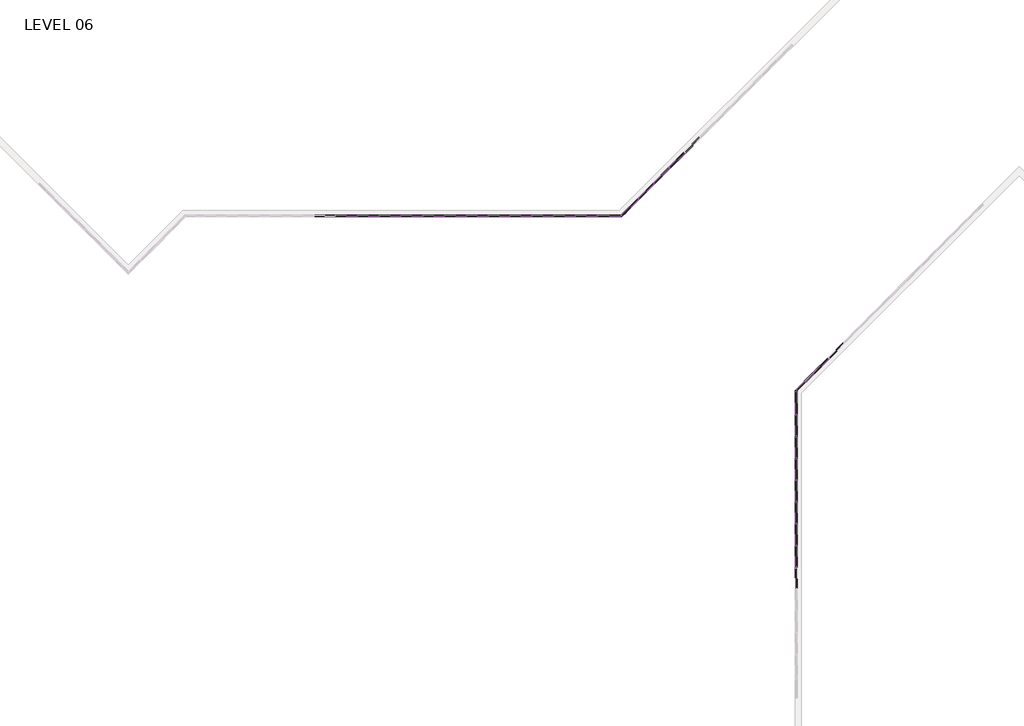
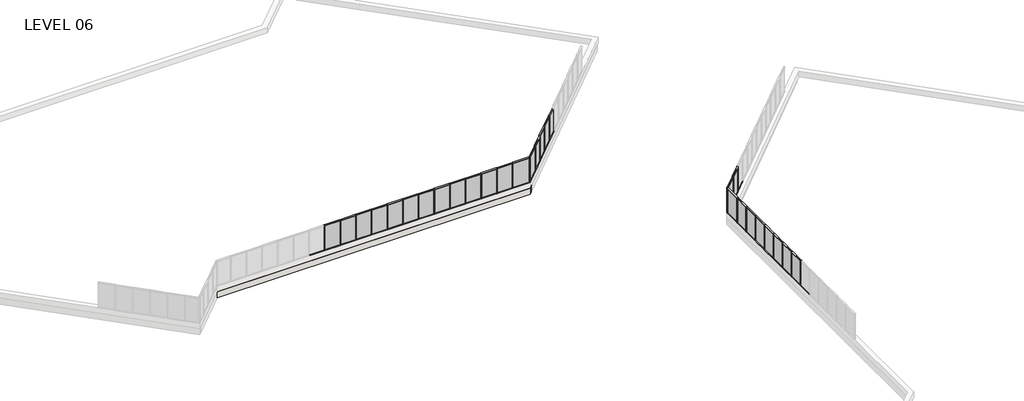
# One storey, part 13 of 17: 89 members, 28 plates, 1 wall.
"""IFC4 building model written with IfcOpenShell, lengths in millimetres."""

from ifc_helpers import new_model, si_unit, origin, place, context, project, spatial, faceted_brep, transform, mapped, element, save
from components import member_5247f267, member_e44af9ab, member_800970d4, member_1bd862b2, member_7ca0f77f, member_c975838b, plate_67294edd, plate_bbcbcabf, plate_e0fd5134, plate_db5d6751

model = new_model("IFC4")

# Units and contexts
model_context = context("Model", 3, world=origin())
ifc_project = project(units=[si_unit("LENGTHUNIT", "METRE", prefix="MILLI")], contexts=[model_context])

# Site, building, storey
site = spatial("IfcSite", under=ifc_project)
building = spatial("IfcBuilding", under=site)
storey = spatial("IfcBuildingStorey", under=building, Name="LEVEL 06", Elevation=19596.1)

# Members
placement = place(None, origin())
member_shape = member_5247f267(model_context)
element("IfcMember", 1, ObjectType="Rectangular Mullion : 2\" x 4.5\" rectangular", at=placement, inside=storey, context=model_context, shape_type="MappedRepresentation", body=[
    mapped(member_shape, transform((38182.55, 88955.8023049, 19596.1), x_axis=(0.0, 0.0, -1.0), y_axis=(0.0, 1.0, 0.0), z_axis=(1.0, 0.0, 0.0))),
])
element("IfcMember", 2, ObjectType="Rectangular Mullion : 2\" x 4.5\" rectangular", at=placement, inside=storey, context=model_context, shape_type="MappedRepresentation", body=[
    mapped(member_shape, transform((36658.55, 88955.8023049, 19596.1), x_axis=(0.0, 0.0, -1.0), y_axis=(0.0, 1.0, 0.0), z_axis=(1.0, 0.0, 0.0))),
])
element("IfcMember", 3, ObjectType="Rectangular Mullion : 2\" x 4.5\" rectangular", at=placement, inside=storey, context=model_context, shape_type="MappedRepresentation", body=[
    mapped(member_shape, transform((35134.55, 88955.8023049, 19596.1), x_axis=(0.0, 0.0, -1.0), y_axis=(0.0, 1.0, 0.0), z_axis=(1.0, 0.0, 0.0))),
])
element("IfcMember", 4, ObjectType="Rectangular Mullion : 2\" x 4.5\" rectangular", at=placement, inside=storey, context=model_context, shape_type="MappedRepresentation", body=[
    mapped(member_shape, transform((32086.55, 88955.8023049, 19596.1), x_axis=(0.0, 0.0, -1.0), y_axis=(0.0, 1.0, 0.0), z_axis=(1.0, 0.0, 0.0))),
])
element("IfcMember", 5, ObjectType="Rectangular Mullion : 2\" x 4.5\" rectangular", at=placement, inside=storey, context=model_context, shape_type="MappedRepresentation", body=[
    mapped(member_shape, transform((30562.55, 88955.8023049, 19596.1), x_axis=(0.0, 0.0, -1.0), y_axis=(0.0, 1.0, 0.0), z_axis=(1.0, 0.0, 0.0))),
])
element("IfcMember", 6, ObjectType="Rectangular Mullion : 2\" x 4.5\" rectangular", at=placement, inside=storey, context=model_context, shape_type="MappedRepresentation", body=[
    mapped(member_shape, transform((29038.55, 88955.8023049, 19596.1), x_axis=(0.0, 0.0, -1.0), y_axis=(0.0, 1.0, 0.0), z_axis=(1.0, 0.0, 0.0))),
])
element("IfcMember", 7, ObjectType="Rectangular Mullion : 2\" x 4.5\" rectangular", at=placement, inside=storey, context=model_context, shape_type="MappedRepresentation", body=[
    mapped(member_shape, transform((33610.55, 88955.8023049, 19596.1), x_axis=(0.0, 0.0, -1.0), y_axis=(0.0, 1.0, 0.0), z_axis=(1.0, 0.0, 0.0))),
])
element("IfcMember", 8, ObjectType="Rectangular Mullion : 2\" x 4.5\" rectangular", at=placement, inside=storey, context=model_context, shape_type="MappedRepresentation", body=[
    mapped(member_shape, transform((39706.55, 88955.8023049, 19596.1), x_axis=(0.0, 0.0, -1.0), y_axis=(0.0, 1.0, 0.0), z_axis=(1.0, 0.0, 0.0))),
])
element("IfcMember", 9, ObjectType="Rectangular Mullion : 2\" x 4.5\" rectangular", at=placement, inside=storey, context=model_context, shape_type="MappedRepresentation", body=[
    mapped(member_shape, transform((41230.55, 88955.8023049, 19596.1), x_axis=(0.0, 0.0, -1.0), y_axis=(0.0, 1.0, 0.0), z_axis=(1.0, 0.0, 0.0))),
])
element("IfcMember", 10, ObjectType="Rectangular Mullion : 2\" x 4.5\" rectangular", at=placement, inside=storey, context=model_context, shape_type="MappedRepresentation", body=[
    mapped(member_shape, transform((42754.55, 88955.8023049, 19596.1), x_axis=(0.0, 0.0, -1.0), y_axis=(0.0, 1.0, 0.0), z_axis=(1.0, 0.0, 0.0))),
])
element("IfcMember", 11, ObjectType="Rectangular Mullion : 2\" x 4.5\" rectangular", at=placement, inside=storey, context=model_context, shape_type="MappedRepresentation", body=[
    mapped(member_shape, transform((44278.55, 88955.8023049, 19596.1), x_axis=(0.0, 0.0, -1.0), y_axis=(0.0, 1.0, 0.0), z_axis=(1.0, 0.0, 0.0))),
])
element("IfcMember", 12, ObjectType="Rectangular Mullion : 2\" x 4.5\" rectangular", at=placement, inside=storey, context=model_context, shape_type="MappedRepresentation", body=[
    mapped(member_shape, transform((45802.55, 88955.8023049, 19596.1), x_axis=(0.0, 0.0, -1.0), y_axis=(0.0, 1.0, 0.0), z_axis=(1.0, 0.0, 0.0))),
])
element("IfcMember", 13, ObjectType="Rectangular Mullion : 2\" x 4.5\" rectangular", at=placement, inside=storey, context=model_context, shape_type="MappedRepresentation", body=[
    mapped(member_shape, transform((47326.55, 88955.8023049, 19596.1), x_axis=(0.0, 0.0, -1.0), y_axis=(0.0, 1.0, 0.0), z_axis=(1.0, 0.0, 0.0))),
])
element("IfcMember", 14, ObjectType="Rectangular Mullion : 2\" x 4.5\" rectangular", at=placement, inside=storey, context=model_context, shape_type="MappedRepresentation", body=[
    mapped(member_shape, transform((51331.7667125, 91245.9128818, 19596.1), x_axis=(0.0, 0.0, -1.0), y_axis=(0.7071067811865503, -0.7071067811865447, 0.0), z_axis=(-0.7071067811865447, -0.7071067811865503, 0.0))),
])
element("IfcMember", 15, ObjectType="Rectangular Mullion : 2\" x 4.5\" rectangular", at=placement, inside=storey, context=model_context, shape_type="MappedRepresentation", body=[
    mapped(member_shape, transform((52409.397447, 92323.5436163, 19596.1), x_axis=(0.0, 0.0, -1.0), y_axis=(0.7071067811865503, -0.7071067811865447, 0.0), z_axis=(-0.7071067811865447, -0.7071067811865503, 0.0))),
])
element("IfcMember", 16, ObjectType="Rectangular Mullion : 2\" x 4.5\" rectangular", at=placement, inside=storey, context=model_context, shape_type="MappedRepresentation", body=[
    mapped(member_shape, transform((53487.0281815, 93401.1743508, 19596.1), x_axis=(0.0, 0.0, -1.0), y_axis=(0.7071067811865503, -0.7071067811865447, 0.0), z_axis=(-0.7071067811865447, -0.7071067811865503, 0.0))),
])
element("IfcMember", 17, ObjectType="Rectangular Mullion : 2\" x 4.5\" rectangular", at=placement, inside=storey, context=model_context, shape_type="MappedRepresentation", body=[
    mapped(member_shape, transform((50254.1359779, 90168.2821472, 19596.1), x_axis=(0.0, 0.0, -1.0), y_axis=(0.7071067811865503, -0.7071067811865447, 0.0), z_axis=(-0.7071067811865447, -0.7071067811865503, 0.0))),
])
element("IfcMember", 18, ObjectType="Rectangular Mullion : 2\" x 4.5\" rectangular", at=placement, inside=storey, context=model_context, shape_type="MappedRepresentation", body=[
    mapped(member_shape, transform((38233.35, 88955.8023049, 22186.9), x_axis=(0.0, 0.0, 1.0), y_axis=(0.0, 1.0, 0.0), z_axis=(-1.0, 0.0, 0.0))),
])
element("IfcMember", 19, ObjectType="Rectangular Mullion : 2\" x 4.5\" rectangular", at=placement, inside=storey, context=model_context, shape_type="MappedRepresentation", body=[
    mapped(member_shape, transform((36709.35, 88955.8023049, 22186.9), x_axis=(0.0, 0.0, 1.0), y_axis=(0.0, 1.0, 0.0), z_axis=(-1.0, 0.0, 0.0))),
])
element("IfcMember", 20, ObjectType="Rectangular Mullion : 2\" x 4.5\" rectangular", at=placement, inside=storey, context=model_context, shape_type="MappedRepresentation", body=[
    mapped(member_shape, transform((35185.35, 88955.8023049, 22186.9), x_axis=(0.0, 0.0, 1.0), y_axis=(0.0, 1.0, 0.0), z_axis=(-1.0, 0.0, 0.0))),
])
element("IfcMember", 21, ObjectType="Rectangular Mullion : 2\" x 4.5\" rectangular", at=placement, inside=storey, context=model_context, shape_type="MappedRepresentation", body=[
    mapped(member_shape, transform((32137.35, 88955.8023049, 22186.9), x_axis=(0.0, 0.0, 1.0), y_axis=(0.0, 1.0, 0.0), z_axis=(-1.0, 0.0, 0.0))),
])
element("IfcMember", 22, ObjectType="Rectangular Mullion : 2\" x 4.5\" rectangular", at=placement, inside=storey, context=model_context, shape_type="MappedRepresentation", body=[
    mapped(member_shape, transform((30613.35, 88955.8023049, 22186.9), x_axis=(0.0, 0.0, 1.0), y_axis=(0.0, 1.0, 0.0), z_axis=(-1.0, 0.0, 0.0))),
])
element("IfcMember", 23, ObjectType="Rectangular Mullion : 2\" x 4.5\" rectangular", at=placement, inside=storey, context=model_context, shape_type="MappedRepresentation", body=[
    mapped(member_shape, transform((29089.35, 88955.8023049, 22186.9), x_axis=(0.0, 0.0, 1.0), y_axis=(0.0, 1.0, 0.0), z_axis=(-1.0, 0.0, 0.0))),
])
element("IfcMember", 24, ObjectType="Rectangular Mullion : 2\" x 4.5\" rectangular", at=placement, inside=storey, context=model_context, shape_type="MappedRepresentation", body=[
    mapped(member_shape, transform((33661.35, 88955.8023049, 22186.9), x_axis=(0.0, 0.0, 1.0), y_axis=(0.0, 1.0, 0.0), z_axis=(-1.0, 0.0, 0.0))),
])
element("IfcMember", 25, ObjectType="Rectangular Mullion : 2\" x 4.5\" rectangular", at=placement, inside=storey, context=model_context, shape_type="MappedRepresentation", body=[
    mapped(member_shape, transform((39757.35, 88955.8023049, 22186.9), x_axis=(0.0, 0.0, 1.0), y_axis=(0.0, 1.0, 0.0), z_axis=(-1.0, 0.0, 0.0))),
])
element("IfcMember", 26, ObjectType="Rectangular Mullion : 2\" x 4.5\" rectangular", at=placement, inside=storey, context=model_context, shape_type="MappedRepresentation", body=[
    mapped(member_shape, transform((41281.35, 88955.8023049, 22186.9), x_axis=(0.0, 0.0, 1.0), y_axis=(0.0, 1.0, 0.0), z_axis=(-1.0, 0.0, 0.0))),
])
element("IfcMember", 27, ObjectType="Rectangular Mullion : 2\" x 4.5\" rectangular", at=placement, inside=storey, context=model_context, shape_type="MappedRepresentation", body=[
    mapped(member_shape, transform((42805.35, 88955.8023049, 22186.9), x_axis=(0.0, 0.0, 1.0), y_axis=(0.0, 1.0, 0.0), z_axis=(-1.0, 0.0, 0.0))),
])
element("IfcMember", 28, ObjectType="Rectangular Mullion : 2\" x 4.5\" rectangular", at=placement, inside=storey, context=model_context, shape_type="MappedRepresentation", body=[
    mapped(member_shape, transform((44329.35, 88955.8023049, 22186.9), x_axis=(0.0, 0.0, 1.0), y_axis=(0.0, 1.0, 0.0), z_axis=(-1.0, 0.0, 0.0))),
])
element("IfcMember", 29, ObjectType="Rectangular Mullion : 2\" x 4.5\" rectangular", at=placement, inside=storey, context=model_context, shape_type="MappedRepresentation", body=[
    mapped(member_shape, transform((45853.35, 88955.8023049, 22186.9), x_axis=(0.0, 0.0, 1.0), y_axis=(0.0, 1.0, 0.0), z_axis=(-1.0, 0.0, 0.0))),
])
element("IfcMember", 30, ObjectType="Rectangular Mullion : 2\" x 4.5\" rectangular", at=placement, inside=storey, context=model_context, shape_type="MappedRepresentation", body=[
    mapped(member_shape, transform((51295.845688, 91209.9918573, 22186.9), x_axis=(0.0, 0.0, 1.0), y_axis=(0.7071067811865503, -0.7071067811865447, 0.0), z_axis=(0.7071067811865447, 0.7071067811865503, 0.0))),
])
element("IfcMember", 31, ObjectType="Rectangular Mullion : 2\" x 4.5\" rectangular", at=placement, inside=storey, context=model_context, shape_type="MappedRepresentation", body=[
    mapped(member_shape, transform((52373.4764225, 92287.6225918, 22186.9), x_axis=(0.0, 0.0, 1.0), y_axis=(0.7071067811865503, -0.7071067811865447, 0.0), z_axis=(0.7071067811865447, 0.7071067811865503, 0.0))),
])
element("IfcMember", 32, ObjectType="Rectangular Mullion : 2\" x 4.5\" rectangular", at=placement, inside=storey, context=model_context, shape_type="MappedRepresentation", body=[
    mapped(member_shape, transform((53451.107157, 93365.2533263, 22186.9), x_axis=(0.0, 0.0, 1.0), y_axis=(0.7071067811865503, -0.7071067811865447, 0.0), z_axis=(0.7071067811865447, 0.7071067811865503, 0.0))),
])
member_2_shape = member_e44af9ab(model_context)
element("IfcMember", 33, ObjectType="Rectangular Mullion : 2\" x 4.5\" rectangular", at=placement, inside=storey, context=model_context, shape_type="MappedRepresentation", body=[
    mapped(member_2_shape, transform((38207.95, 88955.8023049, 19596.1), x_axis=(-1.0, 0.0, 0.0), y_axis=(0.0, 1.0, 0.0), z_axis=(0.0, 0.0, -1.0))),
])
element("IfcMember", 34, ObjectType="Rectangular Mullion : 2\" x 4.5\" rectangular", at=placement, inside=storey, context=model_context, shape_type="MappedRepresentation", body=[
    mapped(member_2_shape, transform((36683.95, 88955.8023049, 19596.1), x_axis=(-1.0, 0.0, 0.0), y_axis=(0.0, 1.0, 0.0), z_axis=(0.0, 0.0, -1.0))),
])
element("IfcMember", 35, ObjectType="Rectangular Mullion : 2\" x 4.5\" rectangular", at=placement, inside=storey, context=model_context, shape_type="MappedRepresentation", body=[
    mapped(member_2_shape, transform((35159.95, 88955.8023049, 19596.1), x_axis=(-1.0, 0.0, 0.0), y_axis=(0.0, 1.0, 0.0), z_axis=(0.0, 0.0, -1.0))),
])
element("IfcMember", 36, ObjectType="Rectangular Mullion : 2\" x 4.5\" rectangular", at=placement, inside=storey, context=model_context, shape_type="MappedRepresentation", body=[
    mapped(member_2_shape, transform((32111.95, 88955.8023049, 19596.1), x_axis=(-1.0, 0.0, 0.0), y_axis=(0.0, 1.0, 0.0), z_axis=(0.0, 0.0, -1.0))),
])
element("IfcMember", 37, ObjectType="Rectangular Mullion : 2\" x 4.5\" rectangular", at=placement, inside=storey, context=model_context, shape_type="MappedRepresentation", body=[
    mapped(member_2_shape, transform((30587.95, 88955.8023049, 19596.1), x_axis=(-1.0, 0.0, 0.0), y_axis=(0.0, 1.0, 0.0), z_axis=(0.0, 0.0, -1.0))),
])
element("IfcMember", 38, ObjectType="Rectangular Mullion : 2\" x 4.5\" rectangular", at=placement, inside=storey, context=model_context, shape_type="MappedRepresentation", body=[
    mapped(member_2_shape, transform((29063.95, 88955.8023049, 19596.1), x_axis=(-1.0, 0.0, 0.0), y_axis=(0.0, 1.0, 0.0), z_axis=(0.0, 0.0, -1.0))),
])
element("IfcMember", 39, ObjectType="Rectangular Mullion : 2\" x 4.5\" rectangular", at=placement, inside=storey, context=model_context, shape_type="MappedRepresentation", body=[
    mapped(member_2_shape, transform((33635.95, 88955.8023049, 19596.1), x_axis=(-1.0, 0.0, 0.0), y_axis=(0.0, 1.0, 0.0), z_axis=(0.0, 0.0, -1.0))),
])
element("IfcMember", 40, ObjectType="Rectangular Mullion : 2\" x 4.5\" rectangular", at=placement, inside=storey, context=model_context, shape_type="MappedRepresentation", body=[
    mapped(member_2_shape, transform((39731.95, 88955.8023049, 19596.1), x_axis=(-1.0, 0.0, 0.0), y_axis=(0.0, 1.0, 0.0), z_axis=(0.0, 0.0, -1.0))),
])
element("IfcMember", 41, ObjectType="Rectangular Mullion : 2\" x 4.5\" rectangular", at=placement, inside=storey, context=model_context, shape_type="MappedRepresentation", body=[
    mapped(member_2_shape, transform((41255.95, 88955.8023049, 19596.1), x_axis=(-1.0, 0.0, 0.0), y_axis=(0.0, 1.0, 0.0), z_axis=(0.0, 0.0, -1.0))),
])
element("IfcMember", 42, ObjectType="Rectangular Mullion : 2\" x 4.5\" rectangular", at=placement, inside=storey, context=model_context, shape_type="MappedRepresentation", body=[
    mapped(member_2_shape, transform((42779.95, 88955.8023049, 19596.1), x_axis=(-1.0, 0.0, 0.0), y_axis=(0.0, 1.0, 0.0), z_axis=(0.0, 0.0, -1.0))),
])
element("IfcMember", 43, ObjectType="Rectangular Mullion : 2\" x 4.5\" rectangular", at=placement, inside=storey, context=model_context, shape_type="MappedRepresentation", body=[
    mapped(member_2_shape, transform((44303.95, 88955.8023049, 19596.1), x_axis=(-1.0, 0.0, 0.0), y_axis=(0.0, 1.0, 0.0), z_axis=(0.0, 0.0, -1.0))),
])
element("IfcMember", 44, ObjectType="Rectangular Mullion : 2\" x 4.5\" rectangular", at=placement, inside=storey, context=model_context, shape_type="MappedRepresentation", body=[
    mapped(member_2_shape, transform((45827.95, 88955.8023049, 19596.1), x_axis=(-1.0, 0.0, 0.0), y_axis=(0.0, 1.0, 0.0), z_axis=(0.0, 0.0, -1.0))),
])
element("IfcMember", 45, ObjectType="Rectangular Mullion : 2\" x 4.5\" rectangular", at=placement, inside=storey, context=model_context, shape_type="MappedRepresentation", body=[
    mapped(member_2_shape, transform((47351.95, 88955.8023049, 19596.1), x_axis=(-1.0, 0.0, 0.0), y_axis=(0.0, 1.0, 0.0), z_axis=(0.0, 0.0, -1.0))),
])
element("IfcMember", 46, ObjectType="Rectangular Mullion : 2\" x 4.5\" rectangular", at=placement, inside=storey, context=model_context, shape_type="MappedRepresentation", body=[
    mapped(member_2_shape, transform((51313.8062002, 91227.9523695, 19596.1), x_axis=(0.7071067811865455, 0.7071067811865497, 0.0), y_axis=(0.7071067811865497, -0.7071067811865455, 0.0), z_axis=(0.0, 0.0, -1.0))),
])
element("IfcMember", 47, ObjectType="Rectangular Mullion : 2\" x 4.5\" rectangular", at=placement, inside=storey, context=model_context, shape_type="MappedRepresentation", body=[
    mapped(member_2_shape, transform((52391.4369347, 92305.583104, 19596.1), x_axis=(0.7071067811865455, 0.7071067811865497, 0.0), y_axis=(0.7071067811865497, -0.7071067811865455, 0.0), z_axis=(0.0, 0.0, -1.0))),
])
element("IfcMember", 48, ObjectType="Rectangular Mullion : 2\" x 4.5\" rectangular", at=placement, inside=storey, context=model_context, shape_type="MappedRepresentation", body=[
    mapped(member_2_shape, transform((53469.0676693, 93383.2138386, 19596.1), x_axis=(0.7071067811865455, 0.7071067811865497, 0.0), y_axis=(0.7071067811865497, -0.7071067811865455, 0.0), z_axis=(0.0, 0.0, -1.0))),
])
element("IfcMember", 49, ObjectType="Rectangular Mullion : 2\" x 4.5\" rectangular", at=placement, inside=storey, context=model_context, shape_type="MappedRepresentation", body=[
    mapped(member_2_shape, transform((50236.1754657, 90150.321635, 19596.1), x_axis=(0.7071067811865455, 0.7071067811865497, 0.0), y_axis=(0.7071067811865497, -0.7071067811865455, 0.0), z_axis=(0.0, 0.0, -1.0))),
])
member_3_shape = member_800970d4(model_context)
element("IfcMember", 50, ObjectType="Rectangular Mullion : 2\" x 4.5\" rectangular", at=placement, inside=storey, context=model_context, shape_type="MappedRepresentation", body=[
    mapped(member_3_shape, transform((49041.6561356, 88955.8023049, 22186.9), x_axis=(1.0, 0.0, 0.0), y_axis=(0.0, 1.0, 0.0), z_axis=(0.0, 0.0, 1.0))),
])
element("IfcMember", 51, ObjectType="Rectangular Mullion : 2\" x 4.5\" rectangular", at=placement, inside=storey, context=model_context, shape_type="MappedRepresentation", body=[
    mapped(member_3_shape, transform((49041.6561356, 88955.8023049, 22186.9), x_axis=(-0.7071067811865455, -0.7071067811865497, 0.0), y_axis=(0.7071067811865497, -0.7071067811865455, 0.0), z_axis=(0.0, 0.0, 1.0))),
])
member_4_shape = member_1bd862b2(model_context)
element("IfcMember", 52, ObjectType="Rectangular Mullion : 2\" x 4.5\" rectangular", at=placement, inside=storey, context=model_context, shape_type="MappedRepresentation", body=[
    mapped(member_4_shape, transform((47377.35, 88955.8023049, 22186.9), x_axis=(0.0, 0.0, 1.0), y_axis=(0.0, 1.0, 0.0), z_axis=(-1.0, 0.0, 0.0))),
])
element("IfcMember", 53, ObjectType="Rectangular Mullion : 2\" x 4.5\" rectangular", at=placement, inside=storey, context=model_context, shape_type="MappedRepresentation", body=[
    mapped(member_4_shape, transform((48990.8561356, 88955.8023049, 19596.1), x_axis=(0.0, 0.0, -1.0), y_axis=(0.0, 1.0, 0.0), z_axis=(1.0, 0.0, 0.0))),
])
member_5_shape = member_7ca0f77f(model_context)
element("IfcMember", 54, ObjectType="Rectangular Mullion : 2\" x 4.5\" rectangular", at=placement, inside=storey, context=model_context, shape_type="MappedRepresentation", body=[
    mapped(member_5_shape, transform((50218.2149534, 90132.3611227, 22186.9), x_axis=(0.0, 0.0, 1.0), y_axis=(0.7071067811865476, -0.7071067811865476, 0.0), z_axis=(0.7071067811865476, 0.7071067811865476, 0.0))),
])
element("IfcMember", 55, ObjectType="Rectangular Mullion : 2\" x 4.5\" rectangular", at=placement, inside=storey, context=model_context, shape_type="MappedRepresentation", body=[
    mapped(member_5_shape, transform((49077.5771601, 88991.7233294, 19596.1), x_axis=(0.0, 0.0, -1.0), y_axis=(0.7071067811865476, -0.7071067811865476, 0.0), z_axis=(-0.7071067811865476, -0.7071067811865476, 0.0))),
])
element("IfcMember", 56, ObjectType="Rectangular Mullion : 2\" x 4.5\" rectangular", at=placement, inside=storey, context=model_context, shape_type="MappedRepresentation", body=[
    mapped(member_shape, transform((61263.7847164, 65925.3675885, 22186.9), x_axis=(0.0, 0.0, 1.0), y_axis=(-1.0, 0.0, 0.0), z_axis=(0.0, -1.0, 0.0))),
])
element("IfcMember", 57, ObjectType="Rectangular Mullion : 2\" x 4.5\" rectangular", at=placement, inside=storey, context=model_context, shape_type="MappedRepresentation", body=[
    mapped(member_shape, transform((61263.7847164, 64401.3675885, 22186.9), x_axis=(0.0, 0.0, 1.0), y_axis=(-1.0, 0.0, 0.0), z_axis=(0.0, -1.0, 0.0))),
])
element("IfcMember", 58, ObjectType="Rectangular Mullion : 2\" x 4.5\" rectangular", at=placement, inside=storey, context=model_context, shape_type="MappedRepresentation", body=[
    mapped(member_shape, transform((61263.7847164, 67449.3675885, 22186.9), x_axis=(0.0, 0.0, 1.0), y_axis=(-1.0, 0.0, 0.0), z_axis=(0.0, -1.0, 0.0))),
])
element("IfcMember", 59, ObjectType="Rectangular Mullion : 2\" x 4.5\" rectangular", at=placement, inside=storey, context=model_context, shape_type="MappedRepresentation", body=[
    mapped(member_shape, transform((61263.7847164, 68973.3675885, 22186.9), x_axis=(0.0, 0.0, 1.0), y_axis=(-1.0, 0.0, 0.0), z_axis=(0.0, -1.0, 0.0))),
])
element("IfcMember", 60, ObjectType="Rectangular Mullion : 2\" x 4.5\" rectangular", at=placement, inside=storey, context=model_context, shape_type="MappedRepresentation", body=[
    mapped(member_shape, transform((61263.7847164, 70497.3675885, 22186.9), x_axis=(0.0, 0.0, 1.0), y_axis=(-1.0, 0.0, 0.0), z_axis=(0.0, -1.0, 0.0))),
])
element("IfcMember", 61, ObjectType="Rectangular Mullion : 2\" x 4.5\" rectangular", at=placement, inside=storey, context=model_context, shape_type="MappedRepresentation", body=[
    mapped(member_shape, transform((61263.7847164, 72021.3675885, 22186.9), x_axis=(0.0, 0.0, 1.0), y_axis=(-1.0, 0.0, 0.0), z_axis=(0.0, -1.0, 0.0))),
])
element("IfcMember", 62, ObjectType="Rectangular Mullion : 2\" x 4.5\" rectangular", at=placement, inside=storey, context=model_context, shape_type="MappedRepresentation", body=[
    mapped(member_shape, transform((61263.7847164, 73545.3675885, 22186.9), x_axis=(0.0, 0.0, 1.0), y_axis=(-1.0, 0.0, 0.0), z_axis=(0.0, -1.0, 0.0))),
])
element("IfcMember", 63, ObjectType="Rectangular Mullion : 2\" x 4.5\" rectangular", at=placement, inside=storey, context=model_context, shape_type="MappedRepresentation", body=[
    mapped(member_shape, transform((63517.9742688, 78987.8632765, 22186.9), x_axis=(0.0, 0.0, 1.0), y_axis=(0.7071067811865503, -0.7071067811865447, 0.0), z_axis=(0.7071067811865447, 0.7071067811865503, 0.0))),
])
element("IfcMember", 64, ObjectType="Rectangular Mullion : 2\" x 4.5\" rectangular", at=placement, inside=storey, context=model_context, shape_type="MappedRepresentation", body=[
    mapped(member_shape, transform((61263.7847164, 65874.5675885, 19596.1), x_axis=(0.0, 0.0, -1.0), y_axis=(-1.0, 0.0, 0.0), z_axis=(0.0, 1.0, 0.0))),
])
element("IfcMember", 65, ObjectType="Rectangular Mullion : 2\" x 4.5\" rectangular", at=placement, inside=storey, context=model_context, shape_type="MappedRepresentation", body=[
    mapped(member_shape, transform((61263.7847164, 64350.5675885, 19596.1), x_axis=(0.0, 0.0, -1.0), y_axis=(-1.0, 0.0, 0.0), z_axis=(0.0, 1.0, 0.0))),
])
element("IfcMember", 66, ObjectType="Rectangular Mullion : 2\" x 4.5\" rectangular", at=placement, inside=storey, context=model_context, shape_type="MappedRepresentation", body=[
    mapped(member_shape, transform((61263.7847164, 67398.5675885, 19596.1), x_axis=(0.0, 0.0, -1.0), y_axis=(-1.0, 0.0, 0.0), z_axis=(0.0, 1.0, 0.0))),
])
element("IfcMember", 67, ObjectType="Rectangular Mullion : 2\" x 4.5\" rectangular", at=placement, inside=storey, context=model_context, shape_type="MappedRepresentation", body=[
    mapped(member_shape, transform((61263.7847164, 68922.5675885, 19596.1), x_axis=(0.0, 0.0, -1.0), y_axis=(-1.0, 0.0, 0.0), z_axis=(0.0, 1.0, 0.0))),
])
element("IfcMember", 68, ObjectType="Rectangular Mullion : 2\" x 4.5\" rectangular", at=placement, inside=storey, context=model_context, shape_type="MappedRepresentation", body=[
    mapped(member_shape, transform((61263.7847164, 70446.5675885, 19596.1), x_axis=(0.0, 0.0, -1.0), y_axis=(-1.0, 0.0, 0.0), z_axis=(0.0, 1.0, 0.0))),
])
element("IfcMember", 69, ObjectType="Rectangular Mullion : 2\" x 4.5\" rectangular", at=placement, inside=storey, context=model_context, shape_type="MappedRepresentation", body=[
    mapped(member_shape, transform((61263.7847164, 71970.5675885, 19596.1), x_axis=(0.0, 0.0, -1.0), y_axis=(-1.0, 0.0, 0.0), z_axis=(0.0, 1.0, 0.0))),
])
element("IfcMember", 70, ObjectType="Rectangular Mullion : 2\" x 4.5\" rectangular", at=placement, inside=storey, context=model_context, shape_type="MappedRepresentation", body=[
    mapped(member_shape, transform((61263.7847164, 73494.5675885, 19596.1), x_axis=(0.0, 0.0, -1.0), y_axis=(-1.0, 0.0, 0.0), z_axis=(0.0, 1.0, 0.0))),
])
element("IfcMember", 71, ObjectType="Rectangular Mullion : 2\" x 4.5\" rectangular", at=placement, inside=storey, context=model_context, shape_type="MappedRepresentation", body=[
    mapped(member_shape, transform((61263.7847164, 75018.5675885, 19596.1), x_axis=(0.0, 0.0, -1.0), y_axis=(-1.0, 0.0, 0.0), z_axis=(0.0, 1.0, 0.0))),
])
element("IfcMember", 72, ObjectType="Rectangular Mullion : 2\" x 4.5\" rectangular", at=placement, inside=storey, context=model_context, shape_type="MappedRepresentation", body=[
    mapped(member_shape, transform((63553.8952932, 79023.784301, 19596.1), x_axis=(0.0, 0.0, -1.0), y_axis=(0.7071067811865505, -0.7071067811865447, 0.0), z_axis=(-0.7071067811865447, -0.7071067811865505, 0.0))),
])
element("IfcMember", 73, ObjectType="Rectangular Mullion : 2\" x 4.5\" rectangular", at=placement, inside=storey, context=model_context, shape_type="MappedRepresentation", body=[
    mapped(member_shape, transform((62476.2645587, 77946.1535665, 19596.1), x_axis=(0.0, 0.0, -1.0), y_axis=(0.7071067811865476, -0.7071067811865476, 0.0), z_axis=(-0.7071067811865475, -0.7071067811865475, 0.0))),
])
element("IfcMember", 74, ObjectType="Rectangular Mullion : 2\" x 4.5\" rectangular", at=placement, inside=storey, context=model_context, shape_type="MappedRepresentation", body=[
    mapped(member_2_shape, transform((61263.7847164, 65899.9675885, 19596.1), x_axis=(0.0, -1.0, 0.0), y_axis=(-1.0, 0.0, 0.0), z_axis=(0.0, 0.0, -1.0))),
])
element("IfcMember", 75, ObjectType="Rectangular Mullion : 2\" x 4.5\" rectangular", at=placement, inside=storey, context=model_context, shape_type="MappedRepresentation", body=[
    mapped(member_2_shape, transform((61263.7847164, 64375.9675885, 19596.1), x_axis=(0.0, -1.0, 0.0), y_axis=(-1.0, 0.0, 0.0), z_axis=(0.0, 0.0, -1.0))),
])
element("IfcMember", 76, ObjectType="Rectangular Mullion : 2\" x 4.5\" rectangular", at=placement, inside=storey, context=model_context, shape_type="MappedRepresentation", body=[
    mapped(member_2_shape, transform((61263.7847164, 67423.9675885, 19596.1), x_axis=(0.0, -1.0, 0.0), y_axis=(-1.0, 0.0, 0.0), z_axis=(0.0, 0.0, -1.0))),
])
element("IfcMember", 77, ObjectType="Rectangular Mullion : 2\" x 4.5\" rectangular", at=placement, inside=storey, context=model_context, shape_type="MappedRepresentation", body=[
    mapped(member_2_shape, transform((61263.7847164, 68947.9675885, 19596.1), x_axis=(0.0, -1.0, 0.0), y_axis=(-1.0, 0.0, 0.0), z_axis=(0.0, 0.0, -1.0))),
])
element("IfcMember", 78, ObjectType="Rectangular Mullion : 2\" x 4.5\" rectangular", at=placement, inside=storey, context=model_context, shape_type="MappedRepresentation", body=[
    mapped(member_2_shape, transform((61263.7847164, 70471.9675885, 19596.1), x_axis=(0.0, -1.0, 0.0), y_axis=(-1.0, 0.0, 0.0), z_axis=(0.0, 0.0, -1.0))),
])
element("IfcMember", 79, ObjectType="Rectangular Mullion : 2\" x 4.5\" rectangular", at=placement, inside=storey, context=model_context, shape_type="MappedRepresentation", body=[
    mapped(member_2_shape, transform((61263.7847164, 71995.9675885, 19596.1), x_axis=(0.0, -1.0, 0.0), y_axis=(-1.0, 0.0, 0.0), z_axis=(0.0, 0.0, -1.0))),
])
element("IfcMember", 80, ObjectType="Rectangular Mullion : 2\" x 4.5\" rectangular", at=placement, inside=storey, context=model_context, shape_type="MappedRepresentation", body=[
    mapped(member_2_shape, transform((61263.7847164, 73519.9675885, 19596.1), x_axis=(0.0, -1.0, 0.0), y_axis=(-1.0, 0.0, 0.0), z_axis=(0.0, 0.0, -1.0))),
])
element("IfcMember", 81, ObjectType="Rectangular Mullion : 2\" x 4.5\" rectangular", at=placement, inside=storey, context=model_context, shape_type="MappedRepresentation", body=[
    mapped(member_2_shape, transform((61263.7847164, 75043.9675885, 19596.1), x_axis=(0.0, -1.0, 0.0), y_axis=(-1.0, 0.0, 0.0), z_axis=(0.0, 0.0, -1.0))),
])
element("IfcMember", 82, ObjectType="Rectangular Mullion : 2\" x 4.5\" rectangular", at=placement, inside=storey, context=model_context, shape_type="MappedRepresentation", body=[
    mapped(member_2_shape, transform((63535.934781, 79005.8237887, 19596.1), x_axis=(0.7071067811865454, 0.7071067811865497, 0.0), y_axis=(0.7071067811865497, -0.7071067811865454, 0.0), z_axis=(0.0, 0.0, -1.0))),
])
element("IfcMember", 83, ObjectType="Rectangular Mullion : 2\" x 4.5\" rectangular", at=placement, inside=storey, context=model_context, shape_type="MappedRepresentation", body=[
    mapped(member_2_shape, transform((62458.3040465, 77928.1930542, 19596.1), x_axis=(0.7071067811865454, 0.7071067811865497, 0.0), y_axis=(0.7071067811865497, -0.7071067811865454, 0.0), z_axis=(0.0, 0.0, -1.0))),
])
element("IfcMember", 84, ObjectType="Rectangular Mullion : 2\" x 4.5\" rectangular", at=placement, inside=storey, context=model_context, shape_type="MappedRepresentation", body=[
    mapped(member_3_shape, transform((61263.7847164, 76733.6737241, 22186.9), x_axis=(0.0, 1.0, 0.0), y_axis=(-1.0, 0.0, 0.0), z_axis=(0.0, 0.0, 1.0))),
])
element("IfcMember", 85, ObjectType="Rectangular Mullion : 2\" x 4.5\" rectangular", at=placement, inside=storey, context=model_context, shape_type="MappedRepresentation", body=[
    mapped(member_3_shape, transform((61263.7847164, 76733.6737241, 22186.9), x_axis=(-0.7071067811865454, -0.7071067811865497, 0.0), y_axis=(0.7071067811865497, -0.7071067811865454, 0.0), z_axis=(0.0, 0.0, 1.0))),
])
element("IfcMember", 86, ObjectType="Rectangular Mullion : 2\" x 4.5\" rectangular", at=placement, inside=storey, context=model_context, shape_type="MappedRepresentation", body=[
    mapped(member_4_shape, transform((61263.7847164, 76682.8737241, 19596.1), x_axis=(0.0, 0.0, -1.0), y_axis=(-1.0, 0.0, 0.0), z_axis=(0.0, 1.0, 0.0))),
])
element("IfcMember", 87, ObjectType="Rectangular Mullion : 2\" x 4.5\" rectangular", at=placement, inside=storey, context=model_context, shape_type="MappedRepresentation", body=[
    mapped(member_4_shape, transform((61263.7847164, 75069.3675885, 22186.9), x_axis=(0.0, 0.0, 1.0), y_axis=(-1.0, 0.0, 0.0), z_axis=(0.0, -1.0, 0.0))),
])
member_6_shape = member_c975838b(model_context)
element("IfcMember", 88, ObjectType="Rectangular Mullion : 2\" x 4.5\" rectangular", at=placement, inside=storey, context=model_context, shape_type="MappedRepresentation", body=[
    mapped(member_6_shape, transform((61299.7057409, 76769.5947486, 19596.1), x_axis=(0.0, 0.0, -1.0), y_axis=(0.7071067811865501, -0.7071067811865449, 0.0), z_axis=(-0.7071067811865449, -0.7071067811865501, 0.0))),
])
element("IfcMember", 89, ObjectType="Rectangular Mullion : 2\" x 4.5\" rectangular", at=placement, inside=storey, context=model_context, shape_type="MappedRepresentation", body=[
    mapped(member_6_shape, transform((62440.3435342, 77910.232542, 22186.9), x_axis=(0.0, 0.0, 1.0), y_axis=(0.7071067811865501, -0.7071067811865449, 0.0), z_axis=(0.7071067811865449, 0.7071067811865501, 0.0))),
])

# Plates
plate_shape = plate_67294edd(model_context)
element("IfcPlate", 90, ObjectType="System Panel : 1/4\" Glass", at=placement, inside=storey, context=model_context, shape_type="MappedRepresentation", body=[
    mapped(plate_shape, transform((37445.95, 88955.8023049, 19646.9), x_axis=(-1.0, 0.0, 0.0), y_axis=(0.0, -1.0, 0.0), z_axis=(0.0, 0.0, 1.0))),
])
element("IfcPlate", 91, ObjectType="System Panel : 1/4\" Glass", at=placement, inside=storey, context=model_context, shape_type="MappedRepresentation", body=[
    mapped(plate_shape, transform((35921.95, 88955.8023049, 19646.9), x_axis=(-1.0, 0.0, 0.0), y_axis=(0.0, -1.0, 0.0), z_axis=(0.0, 0.0, 1.0))),
])
element("IfcPlate", 92, ObjectType="System Panel : 1/4\" Glass", at=placement, inside=storey, context=model_context, shape_type="MappedRepresentation", body=[
    mapped(plate_shape, transform((34397.95, 88955.8023049, 19646.9), x_axis=(-1.0, 0.0, 0.0), y_axis=(0.0, -1.0, 0.0), z_axis=(0.0, 0.0, 1.0))),
])
element("IfcPlate", 93, ObjectType="System Panel : 1/4\" Glass", at=placement, inside=storey, context=model_context, shape_type="MappedRepresentation", body=[
    mapped(plate_shape, transform((31349.95, 88955.8023049, 19646.9), x_axis=(-1.0, 0.0, 0.0), y_axis=(0.0, -1.0, 0.0), z_axis=(0.0, 0.0, 1.0))),
])
element("IfcPlate", 94, ObjectType="System Panel : 1/4\" Glass", at=placement, inside=storey, context=model_context, shape_type="MappedRepresentation", body=[
    mapped(plate_shape, transform((29825.95, 88955.8023049, 19646.9), x_axis=(-1.0, 0.0, 0.0), y_axis=(0.0, -1.0, 0.0), z_axis=(0.0, 0.0, 1.0))),
])
element("IfcPlate", 95, ObjectType="System Panel : 1/4\" Glass", at=placement, inside=storey, context=model_context, shape_type="MappedRepresentation", body=[
    mapped(plate_shape, transform((32873.95, 88955.8023049, 19646.9), x_axis=(-1.0, 0.0, 0.0), y_axis=(0.0, -1.0, 0.0), z_axis=(0.0, 0.0, 1.0))),
])
element("IfcPlate", 96, ObjectType="System Panel : 1/4\" Glass", at=placement, inside=storey, context=model_context, shape_type="MappedRepresentation", body=[
    mapped(plate_shape, transform((38969.95, 88955.8023049, 19646.9), x_axis=(-1.0, 0.0, 0.0), y_axis=(0.0, -1.0, 0.0), z_axis=(0.0, 0.0, 1.0))),
])
element("IfcPlate", 97, ObjectType="System Panel : 1/4\" Glass", at=placement, inside=storey, context=model_context, shape_type="MappedRepresentation", body=[
    mapped(plate_shape, transform((40493.95, 88955.8023049, 19646.9), x_axis=(-1.0, 0.0, 0.0), y_axis=(0.0, -1.0, 0.0), z_axis=(0.0, 0.0, 1.0))),
])
element("IfcPlate", 98, ObjectType="System Panel : 1/4\" Glass", at=placement, inside=storey, context=model_context, shape_type="MappedRepresentation", body=[
    mapped(plate_shape, transform((42017.95, 88955.8023049, 19646.9), x_axis=(-1.0, 0.0, 0.0), y_axis=(0.0, -1.0, 0.0), z_axis=(0.0, 0.0, 1.0))),
])
element("IfcPlate", 99, ObjectType="System Panel : 1/4\" Glass", at=placement, inside=storey, context=model_context, shape_type="MappedRepresentation", body=[
    mapped(plate_shape, transform((43541.95, 88955.8023049, 19646.9), x_axis=(-1.0, 0.0, 0.0), y_axis=(0.0, -1.0, 0.0), z_axis=(0.0, 0.0, 1.0))),
])
element("IfcPlate", 100, ObjectType="System Panel : 1/4\" Glass", at=placement, inside=storey, context=model_context, shape_type="MappedRepresentation", body=[
    mapped(plate_shape, transform((45065.95, 88955.8023049, 19646.9), x_axis=(-1.0, 0.0, 0.0), y_axis=(0.0, -1.0, 0.0), z_axis=(0.0, 0.0, 1.0))),
])
element("IfcPlate", 101, ObjectType="System Panel : 1/4\" Glass", at=placement, inside=storey, context=model_context, shape_type="MappedRepresentation", body=[
    mapped(plate_shape, transform((46589.95, 88955.8023049, 19646.9), x_axis=(-1.0, 0.0, 0.0), y_axis=(0.0, -1.0, 0.0), z_axis=(0.0, 0.0, 1.0))),
])
element("IfcPlate", 102, ObjectType="System Panel : 1/4\" Glass", at=placement, inside=storey, context=model_context, shape_type="MappedRepresentation", body=[
    mapped(plate_shape, transform((51852.6215675, 91766.7677368, 19646.9), x_axis=(0.7071067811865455, 0.7071067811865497, 0.0), y_axis=(-0.7071067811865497, 0.7071067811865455, 0.0), z_axis=(0.0, 0.0, 1.0))),
])
element("IfcPlate", 103, ObjectType="System Panel : 1/4\" Glass", at=placement, inside=storey, context=model_context, shape_type="MappedRepresentation", body=[
    mapped(plate_shape, transform((52930.252302, 92844.3984713, 19646.9), x_axis=(0.7071067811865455, 0.7071067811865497, 0.0), y_axis=(-0.7071067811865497, 0.7071067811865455, 0.0), z_axis=(0.0, 0.0, 1.0))),
])
element("IfcPlate", 104, ObjectType="System Panel : 1/4\" Glass", at=placement, inside=storey, context=model_context, shape_type="MappedRepresentation", body=[
    mapped(plate_shape, transform((50774.990833, 90689.1370023, 19646.9), x_axis=(0.7071067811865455, 0.7071067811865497, 0.0), y_axis=(-0.7071067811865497, 0.7071067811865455, 0.0), z_axis=(0.0, 0.0, 1.0))),
])
plate_2_shape = plate_bbcbcabf(model_context)
element("IfcPlate", 105, ObjectType="System Panel : 1/4\" Glass", at=placement, inside=storey, context=model_context, shape_type="MappedRepresentation", body=[
    mapped(plate_2_shape, transform((48184.1030678, 88955.8023049, 19646.9), x_axis=(-1.0, 0.0, 0.0), y_axis=(0.0, -1.0, 0.0), z_axis=(0.0, 0.0, 1.0))),
])
plate_3_shape = plate_e0fd5134(model_context)
element("IfcPlate", 106, ObjectType="System Panel : 1/4\" Glass", at=placement, inside=storey, context=model_context, shape_type="MappedRepresentation", body=[
    mapped(plate_3_shape, transform((54007.8793361, 93922.0255054, 19646.9), x_axis=(0.7071067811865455, 0.7071067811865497, 0.0), y_axis=(-0.7071067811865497, 0.7071067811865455, 0.0), z_axis=(0.0, 0.0, 1.0))),
])
plate_4_shape = plate_db5d6751(model_context)
element("IfcPlate", 107, ObjectType="System Panel : 1/4\" Glass", at=placement, inside=storey, context=model_context, shape_type="MappedRepresentation", body=[
    mapped(plate_4_shape, transform((49647.8960568, 89562.0422261, 19646.9), x_axis=(0.7071067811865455, 0.7071067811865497, 0.0), y_axis=(-0.7071067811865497, 0.7071067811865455, 0.0), z_axis=(0.0, 0.0, 1.0))),
])
element("IfcPlate", 108, ObjectType="System Panel : 1/4\" Glass", at=placement, inside=storey, context=model_context, shape_type="MappedRepresentation", body=[
    mapped(plate_shape, transform((61263.7847164, 65137.9675885, 19646.9), x_axis=(0.0, -1.0, 0.0), y_axis=(1.0, 0.0, 0.0), z_axis=(0.0, 0.0, 1.0))),
])
element("IfcPlate", 109, ObjectType="System Panel : 1/4\" Glass", at=placement, inside=storey, context=model_context, shape_type="MappedRepresentation", body=[
    mapped(plate_shape, transform((61263.7847164, 66661.9675885, 19646.9), x_axis=(0.0, -1.0, 0.0), y_axis=(1.0, 0.0, 0.0), z_axis=(0.0, 0.0, 1.0))),
])
element("IfcPlate", 110, ObjectType="System Panel : 1/4\" Glass", at=placement, inside=storey, context=model_context, shape_type="MappedRepresentation", body=[
    mapped(plate_shape, transform((61263.7847164, 68185.9675885, 19646.9), x_axis=(0.0, -1.0, 0.0), y_axis=(1.0, 0.0, 0.0), z_axis=(0.0, 0.0, 1.0))),
])
element("IfcPlate", 111, ObjectType="System Panel : 1/4\" Glass", at=placement, inside=storey, context=model_context, shape_type="MappedRepresentation", body=[
    mapped(plate_shape, transform((61263.7847164, 69709.9675885, 19646.9), x_axis=(0.0, -1.0, 0.0), y_axis=(1.0, 0.0, 0.0), z_axis=(0.0, 0.0, 1.0))),
])
element("IfcPlate", 112, ObjectType="System Panel : 1/4\" Glass", at=placement, inside=storey, context=model_context, shape_type="MappedRepresentation", body=[
    mapped(plate_shape, transform((61263.7847164, 71233.9675885, 19646.9), x_axis=(0.0, -1.0, 0.0), y_axis=(1.0, 0.0, 0.0), z_axis=(0.0, 0.0, 1.0))),
])
element("IfcPlate", 113, ObjectType="System Panel : 1/4\" Glass", at=placement, inside=storey, context=model_context, shape_type="MappedRepresentation", body=[
    mapped(plate_shape, transform((61263.7847164, 72757.9675885, 19646.9), x_axis=(0.0, -1.0, 0.0), y_axis=(1.0, 0.0, 0.0), z_axis=(0.0, 0.0, 1.0))),
])
element("IfcPlate", 114, ObjectType="System Panel : 1/4\" Glass", at=placement, inside=storey, context=model_context, shape_type="MappedRepresentation", body=[
    mapped(plate_shape, transform((61263.7847164, 74281.9675885, 19646.9), x_axis=(0.0, -1.0, 0.0), y_axis=(1.0, 0.0, 0.0), z_axis=(0.0, 0.0, 1.0))),
])
element("IfcPlate", 115, ObjectType="System Panel : 1/4\" Glass", at=placement, inside=storey, context=model_context, shape_type="MappedRepresentation", body=[
    mapped(plate_shape, transform((62997.1194137, 78467.0084215, 19646.9), x_axis=(0.7071067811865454, 0.7071067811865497, 0.0), y_axis=(-0.7071067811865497, 0.7071067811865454, 0.0), z_axis=(0.0, 0.0, 1.0))),
])
element("IfcPlate", 116, ObjectType="System Panel : 1/4\" Glass", at=placement, inside=storey, context=model_context, shape_type="MappedRepresentation", body=[
    mapped(plate_2_shape, transform((61263.7847164, 75876.1206563, 19646.9), x_axis=(0.0, -1.0, 0.0), y_axis=(1.0, 0.0, 0.0), z_axis=(0.0, 0.0, 1.0))),
])
element("IfcPlate", 117, ObjectType="System Panel : 1/4\" Glass", at=placement, inside=storey, context=model_context, shape_type="MappedRepresentation", body=[
    mapped(plate_4_shape, transform((61870.0246376, 77339.9136453, 19646.9), x_axis=(0.7071067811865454, 0.7071067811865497, 0.0), y_axis=(-0.7071067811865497, 0.7071067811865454, 0.0), z_axis=(0.0, 0.0, 1.0))),
])

# Wall
element("IfcWall", 118, ObjectType="01-CONCRETE-12", at=placement, inside=storey, context=model_context, shape_type="Brep", body=[
    faceted_brep([(49370.1284407, 89203.4523049, 18415.0), (48939.0761469, 89203.4523049, 18415.0), (48656.8136083, 89203.4523049, 18415.0), (41560.75, 89203.4523049, 18415.0), (40951.15, 89203.4523049, 18415.0), (33940.75, 89203.4523049, 18415.0), (33331.15, 89203.4523049, 18415.0), (26320.75, 89203.4523049, 18415.0), (25711.15, 89203.4523049, 18415.0), (18700.75, 89203.4523049, 18415.0), (18459.0761469, 89203.4523049, 18415.0), (18459.0761469, 89203.4523049, 19037.3), (18700.75, 89203.4523049, 19037.3), (25711.15, 89203.4523049, 19037.3), (26320.75, 89203.4523049, 19037.3), (33331.15, 89203.4523049, 19037.3), (33940.75, 89203.4523049, 19037.3), (40951.15, 89203.4523049, 19037.3), (41560.75, 89203.4523049, 19037.3), (48656.8136083, 89203.4523049, 19037.3), (48939.0761469, 89203.4523049, 19037.3), (49370.1284407, 89203.4523049, 19037.3), (49065.3284407, 88898.6523049, 18415.0), (49065.3284407, 88898.6523049, 19037.3), (18585.3284407, 88898.6523049, 19037.3), (18154.2761469, 88898.6523049, 19037.3), (18154.2761469, 88898.6523049, 18415.0), (18585.3284407, 88898.6523049, 18415.0), (18408.2761469, 89152.6523049, 18415.0), (18408.2761469, 89152.6523049, 19037.3)], [[[0, 1, 2, 3, 4, 5, 6, 7, 8, 9, 10, 11, 12, 13, 14, 15, 16, 17, 18, 19, 20, 21]], [[22, 23, 24, 25, 26, 27]], [[10, 9, 8, 7, 6, 5, 4, 3, 2, 1, 0, 22, 27, 26, 28]], [[21, 20, 19, 18, 17, 16, 15, 14, 13, 12, 11, 29, 25, 24, 23]], [[11, 10, 28, 26, 25, 29]], [[0, 21, 23, 22]]]),
])

save(model, "model.ifc")
